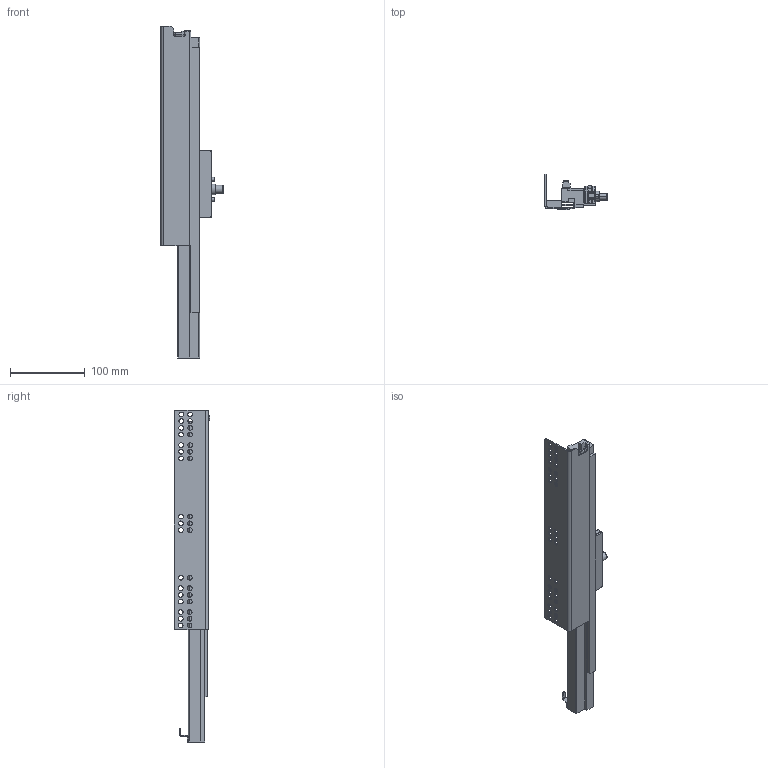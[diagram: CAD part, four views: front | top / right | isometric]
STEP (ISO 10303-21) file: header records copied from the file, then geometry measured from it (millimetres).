
FILE_DESCRIPTION (( 'STEP AP203' ), '1' );
FILE_NAME ('TF10450H-L-DTC3D-close.STEP', '2021-06-03T01:35:26', ( 'df' ), ( 'Microsoft' ), 'SwSTEP 2.0', 'SolidWorks 2018', '' );
FILE_SCHEMA (( 'CONFIG_CONTROL_DESIGN' ));
Length unit declared in the file: millimetre
Products named in the file (1): TF10450H-L-DTC3D-close
Bounding box: 83.3 x 48 x 445.27 mm (x, y, z)
Volume: 363708.7 mm3; surface area: 107275.5 mm2
Topology: 1 solids, 4 shells, 528 faces, 1369 edges, 845 vertices
Faces by surface type: cylinder 252, plane 168, bspline 102, sphere 4, torus 2
Entity records: 18046 total; most frequent: CARTESIAN_POINT 5305, ORIENTED_EDGE 2716, DIRECTION 2624, EDGE_CURVE 1358, AXIS2_PLACEMENT_3D 974, VERTEX_POINT 845, VECTOR 676, LINE 676
